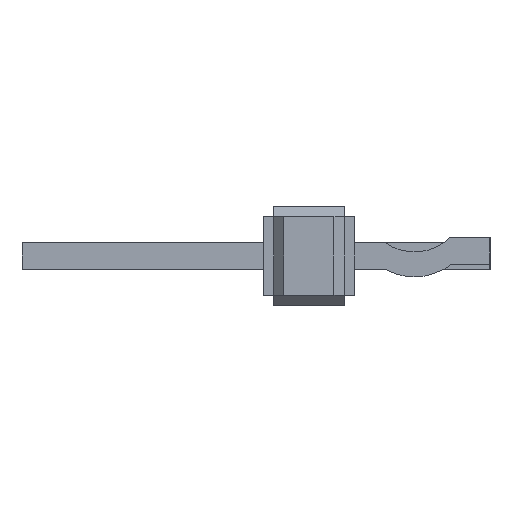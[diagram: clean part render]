
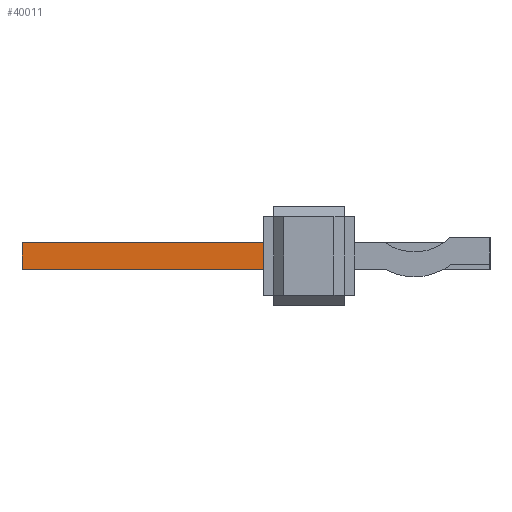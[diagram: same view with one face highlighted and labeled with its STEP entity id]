
A CAD part, left-side view. The second image highlights one B-rep face of the part: STEP entity #40011.
In plain terms, the highlighted planar face has unit normal (-1, 0, 0).
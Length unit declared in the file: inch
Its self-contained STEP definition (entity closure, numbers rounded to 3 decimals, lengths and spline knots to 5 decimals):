
#5349=DIRECTION('',(0.,0.,-1.));
#5350=VECTOR('',#5349,0.0265);
#5351=CARTESIAN_POINT('',(-1.76325,0.08,0.01325));
#5352=LINE('',#5351,#5350);
#13945=DIRECTION('',(0.,1.,0.));
#13946=VECTOR('',#13945,0.25);
#13947=CARTESIAN_POINT('',(-1.76325,0.08,-0.01325));
#13948=LINE('',#13947,#13946);
#13949=DIRECTION('',(0.,0.,1.));
#13950=VECTOR('',#13949,0.0265);
#13951=CARTESIAN_POINT('',(-1.76325,0.33,-0.01325));
#13952=LINE('',#13951,#13950);
#13953=DIRECTION('',(0.,-1.,0.));
#13954=VECTOR('',#13953,0.25);
#13955=CARTESIAN_POINT('',(-1.76325,0.33,0.01325));
#13956=LINE('',#13955,#13954);
#20721=CARTESIAN_POINT('',(-1.76325,0.33,-0.01325));
#20722=CARTESIAN_POINT('',(-1.76325,0.33,0.01325));
#20723=VERTEX_POINT('',#20721);
#20724=VERTEX_POINT('',#20722);
#20737=CARTESIAN_POINT('',(-1.76325,0.08,0.01325));
#20738=CARTESIAN_POINT('',(-1.76325,0.08,-0.01325));
#20739=VERTEX_POINT('',#20737);
#20740=VERTEX_POINT('',#20738);
#39997=CARTESIAN_POINT('',(-1.76325,0.,0.));
#39998=DIRECTION('',(1.,0.,0.));
#39999=DIRECTION('',(0.,0.,-1.));
#40000=AXIS2_PLACEMENT_3D('',#39997,#39998,#39999);
#40001=PLANE('',#40000);
#40002=ORIENTED_EDGE('',*,*,#27514,.T.);
#40004=ORIENTED_EDGE('',*,*,#40003,.T.);
#40006=ORIENTED_EDGE('',*,*,#40005,.T.);
#40008=ORIENTED_EDGE('',*,*,#40007,.T.);
#40009=EDGE_LOOP('',(#40002,#40004,#40006,#40008));
#40010=FACE_OUTER_BOUND('',#40009,.F.);
#40011=ADVANCED_FACE('',(#40010),#40001,.F.);
#27514=EDGE_CURVE('',#20739,#20740,#5352,.T.);
#40003=EDGE_CURVE('',#20740,#20723,#13948,.T.);
#40005=EDGE_CURVE('',#20723,#20724,#13952,.T.);
#40007=EDGE_CURVE('',#20724,#20739,#13956,.T.);
